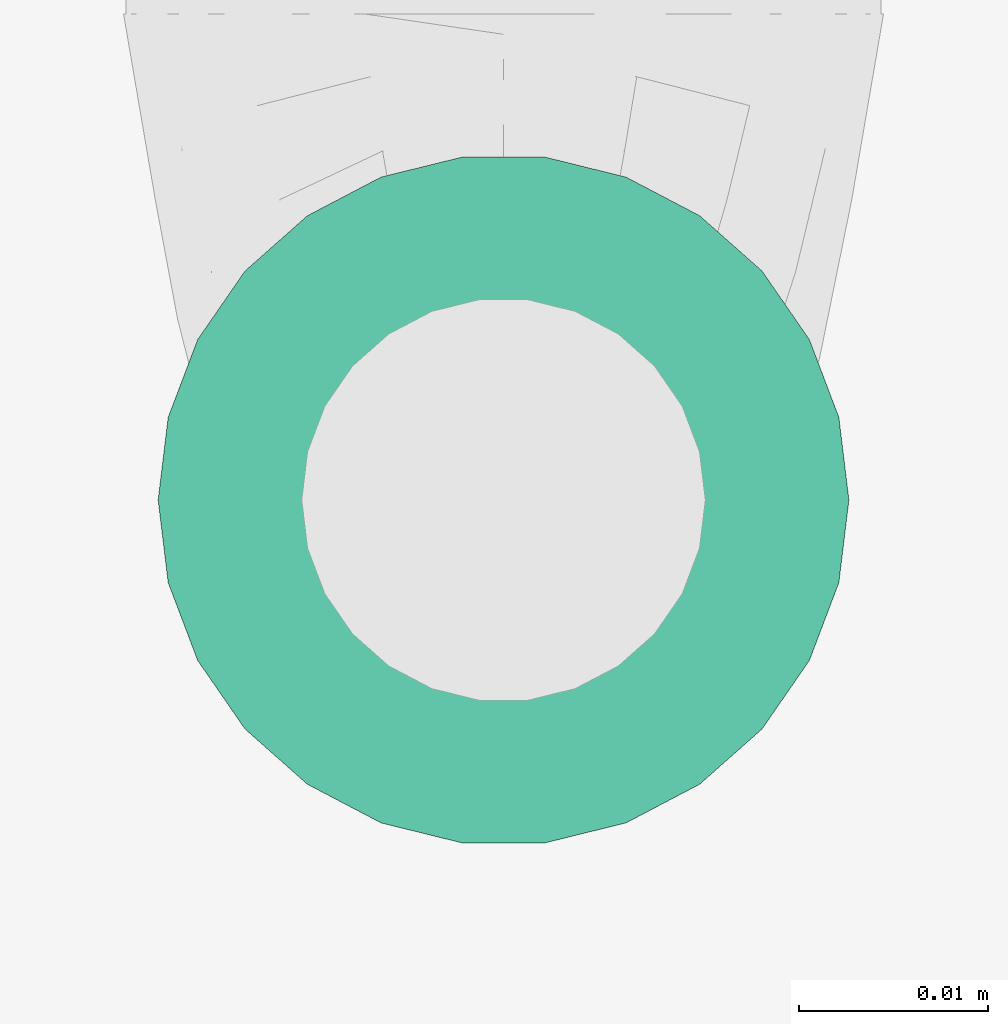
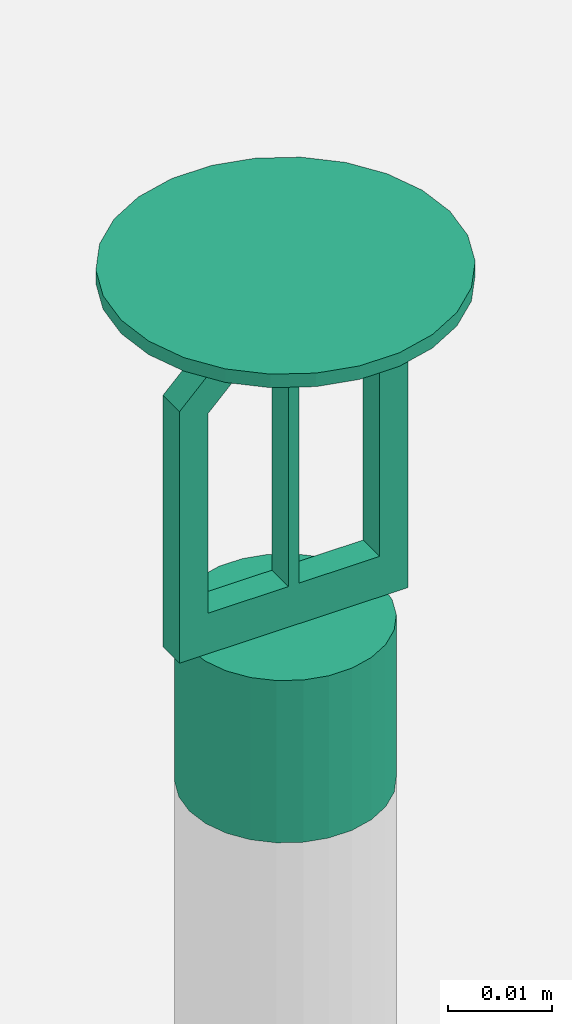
# One storey, part 90 of 108: 1 fire suppression terminal.
"""IFC4 building model written with IfcOpenShell, lengths in feet."""

from ifc_helpers import new_model, entity, si_unit, converted_unit, derived_unit, direction, frame, frame_2d, origin, place, context, subcontext, project, spatial, polyline, circle, outline, extrude, source, transform, mapped, material, type_object, type_shapes, element, save


model = new_model("IFC4")

# Units and contexts
model_context = context("Model", 3, precision=0.0001, world=origin(), true_north=direction((6.12303176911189e-17, 1.0)))
body_context = subcontext(model_context, "Body", "Model", "MODEL_VIEW")
ifc_project = project(units=[converted_unit("LENGTHUNIT", "FOOT", entity("IfcRatioMeasure", 0.3048), si_unit("LENGTHUNIT", "METRE"), dimensions=[1, 0, 0, 0, 0, 0, 0]), converted_unit("AREAUNIT", "SQUARE FOOT", entity("IfcRatioMeasure", 0.09290304), si_unit("AREAUNIT", "SQUARE_METRE"), dimensions=[2, 0, 0, 0, 0, 0, 0]), converted_unit("VOLUMEUNIT", "CUBIC FOOT", entity("IfcRatioMeasure", 0.028316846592), si_unit("VOLUMEUNIT", "CUBIC_METRE"), dimensions=[3, 0, 0, 0, 0, 0, 0]), converted_unit("PLANEANGLEUNIT", "DEGREE", entity("IfcRatioMeasure", 0.0174532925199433), si_unit("PLANEANGLEUNIT", "RADIAN"), dimensions=[0, 0, 0, 0, 0, 0, 0]), si_unit("MASSUNIT", "GRAM", prefix="KILO"), derived_unit("MASSDENSITYUNIT", [(si_unit("MASSUNIT", "GRAM", prefix="KILO"), 1), (si_unit("LENGTHUNIT", "METRE"), -3)]), si_unit("TIMEUNIT", "SECOND"), si_unit("FREQUENCYUNIT", "HERTZ"), si_unit("THERMODYNAMICTEMPERATUREUNIT", "DEGREE_CELSIUS"), derived_unit("THERMALTRANSMITTANCEUNIT", [(si_unit("MASSUNIT", "GRAM", prefix="KILO"), 1), (si_unit("THERMODYNAMICTEMPERATUREUNIT", "KELVIN"), -1), (si_unit("TIMEUNIT", "SECOND"), -3)]), derived_unit("VOLUMETRICFLOWRATEUNIT", [(si_unit("LENGTHUNIT", "METRE"), 3), (si_unit("TIMEUNIT", "SECOND"), -1)]), si_unit("ELECTRICCURRENTUNIT", "AMPERE"), si_unit("ELECTRICVOLTAGEUNIT", "VOLT"), si_unit("POWERUNIT", "WATT"), si_unit("FORCEUNIT", "NEWTON"), si_unit("ILLUMINANCEUNIT", "LUX"), si_unit("LUMINOUSFLUXUNIT", "LUMEN"), si_unit("LUMINOUSINTENSITYUNIT", "CANDELA"), derived_unit("USERDEFINED", [(si_unit("MASSUNIT", "GRAM", prefix="KILO"), -1), (si_unit("LENGTHUNIT", "METRE"), -2), (si_unit("TIMEUNIT", "SECOND"), 3), (si_unit("LUMINOUSFLUXUNIT", "LUMEN"), 1)]), derived_unit("LINEARVELOCITYUNIT", [(si_unit("LENGTHUNIT", "METRE"), 1), (si_unit("TIMEUNIT", "SECOND"), -1)]), si_unit("PRESSUREUNIT", "PASCAL"), derived_unit("USERDEFINED", [(si_unit("LENGTHUNIT", "METRE"), -2), (si_unit("MASSUNIT", "GRAM", prefix="KILO"), 1), (si_unit("TIMEUNIT", "SECOND"), -2)])], contexts=[model_context])

# Site, building, storey
site_placement = place(None, origin())
site = spatial("IfcSite", under=ifc_project, at=site_placement, Name="Default", CompositionType="ELEMENT")
building_placement = place(site_placement, origin())
building = spatial("IfcBuilding", under=site, at=building_placement, CompositionType="ELEMENT")
storey_placement = place(building_placement, frame((0.0, 0.0, 168.0)))
storey = spatial("IfcBuildingStorey", under=building, at=storey_placement, Name="Level 15", CompositionType="ELEMENT", Elevation=168.0)

# Fire suppression terminal
ifc_material = material(Name="Default", Category="Miscellaneous")
fire_suppression_terminal_type = type_object("IfcFireSuppressionTerminalType", Name="Standard", PredefinedType="NOTDEFINED", material=ifc_material)
shared_shape = source(origin(), body_context, "Body", "SweptSolid", [
    extrude(outline(polyline([(-0.0416666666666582, -0.0872160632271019), (0.0416666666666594, -0.0872160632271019), (0.0416666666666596, 0.00964585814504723), (0.0167345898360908, 0.0345779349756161), (0.0167345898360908, 0.0429922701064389), (-0.0167345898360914, 0.0429922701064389), (-0.0167345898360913, 0.0345779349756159), (-0.0416666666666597, 0.00964585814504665), (-0.0416666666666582, -0.0872160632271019)]), holes=[polyline([(0.00195312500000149, -0.0715910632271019), (0.00195312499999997, 0.0261635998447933), (0.0104175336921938, 0.0261635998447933), (0.0312499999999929, 0.00533113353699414), (0.0312499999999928, -0.0715910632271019), (0.00195312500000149, -0.0715910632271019)]), polyline([(-0.0019531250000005, -0.0715910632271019), (-0.0312499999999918, -0.0715910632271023), (-0.031249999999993, 0.00533113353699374), (-0.0104175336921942, 0.0261635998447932), (-0.00195312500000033, 0.0261635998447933), (-0.0019531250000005, -0.0715910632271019)])]), frame((0.0, -0.00520833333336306, 0.14971606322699), z_axis=(0.0, 1.0, 0.0), x_axis=(-1.0, 0.0, 0.0)), (0.0, 0.0, 1.0), 0.0104166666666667),
    extrude(circle(Radius=0.035, at=frame_2d((-2.76586283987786e-18, -4.44862351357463e-17), x_axis=(1.0, 0.0))), frame((0.0, 0.0, 0.0), z_axis=(0.0, 0.0, 1.0), x_axis=(-1.0, 0.0, 0.0)), (0.0, 0.0, 1.0), 0.0624999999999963),
    extrude(circle(Radius=0.0598958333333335, at=frame_2d((5.01992838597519e-20, -7.61297178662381e-17), x_axis=(1.0, 0.0))), frame((0.0, 0.0, 0.192708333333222), z_axis=(0.0, 0.0, 1.0), x_axis=(-1.0, 0.0, 0.0)), (0.0, 0.0, 1.0), 0.00520833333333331),
])
type_shapes(fire_suppression_terminal_type, [shared_shape])
fire_suppression_terminal_placement = place(storey_placement, frame((-25.7607221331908, -14.0778277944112, 10.0833333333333)))
element("IfcFireSuppressionTerminal", 1, at=fire_suppression_terminal_placement, inside=storey, type_object=fire_suppression_terminal_type, material=ifc_material, Name="Upright:Standard", ObjectType="Upright:Standard", PredefinedType="NOTDEFINED", context=body_context, shape_type="MappedRepresentation", body=[
    mapped(shared_shape, transform((0.0, 0.0, 0.0), scale=1.0)),
])

save(model, "model.ifc")
